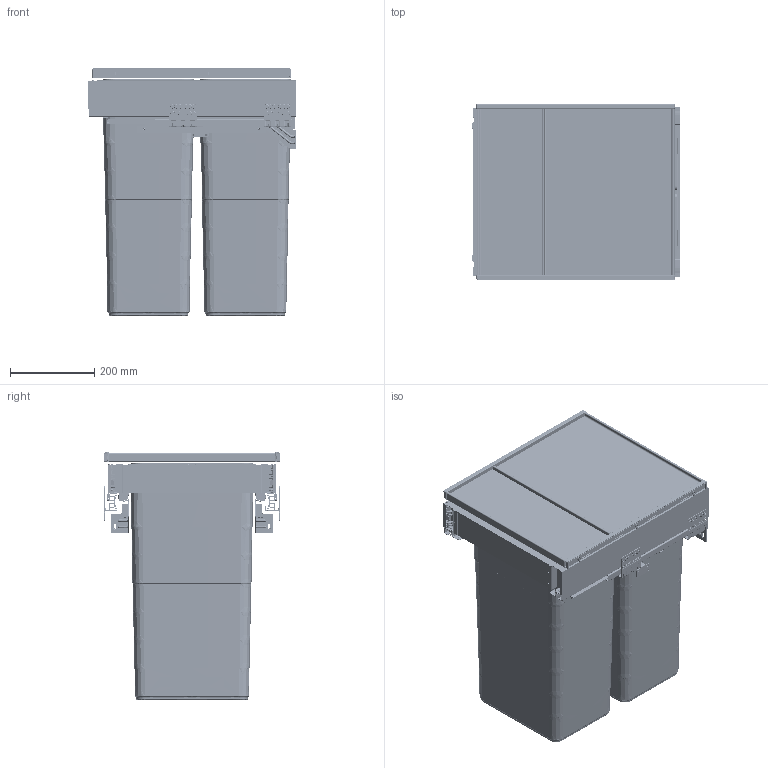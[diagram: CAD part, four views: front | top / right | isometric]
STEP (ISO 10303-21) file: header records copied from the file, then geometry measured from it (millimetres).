
FILE_DESCRIPTION(/* description */ (''),/* implementation_level */ '2;1');
FILE_NAME(/* name */ 'a_5271.E3_45ER HÄNGER.SET_500_S16_EINS2PACK_5280.51_2X32L.stp',/* time_stamp */ '2025-12-03T08:29:53+01:00',/* author */ (''),/* organization */ (''),/* preprocessor_version */ 'ST-DEVELOPER v20',/* originating_system */ 'SIEMENS PLM Software NX2412.7002',/* authorisation */ '');
FILE_SCHEMA (('AUTOMOTIVE_DESIGN { 1 0 10303 214 3 1 1 1 }'));
Products named in the file (1): a_5271.E3_45ER HÄNGER.SET_500_S16_EINS2PACK_5280.51_2X32L_objects
Bounding box: 494.8 x 418 x 587.06 mm (x, y, z)
Volume: 7859223.7 mm3; surface area: 5071206.7 mm2
Topology: 68 solids, 86 shells, 11646 faces, 31171 edges, 19762 vertices
Faces by surface type: plane 4670, cylinder 3034, bspline 2206, cone 870, torus 666, sphere 180, extrusion 16, revolution 4
Full cylindrical faces by diameter (mm): 2.6 x24, 3.6 x4, 3.95 x2, 4 x6, 4.9 x4, 5 x6, 6 x2, 6.3 x16, 7.5 x6, 8.9 x4, 9 x4, 12 x2
Entity records: 459926 total; most frequent: CARTESIAN_POINT 180673, ORIENTED_EDGE 60822, DIRECTION 53331, EDGE_CURVE 30411, VERTEX_POINT 19532, AXIS2_PLACEMENT_3D 19441, VECTOR 14445, LINE 14429
